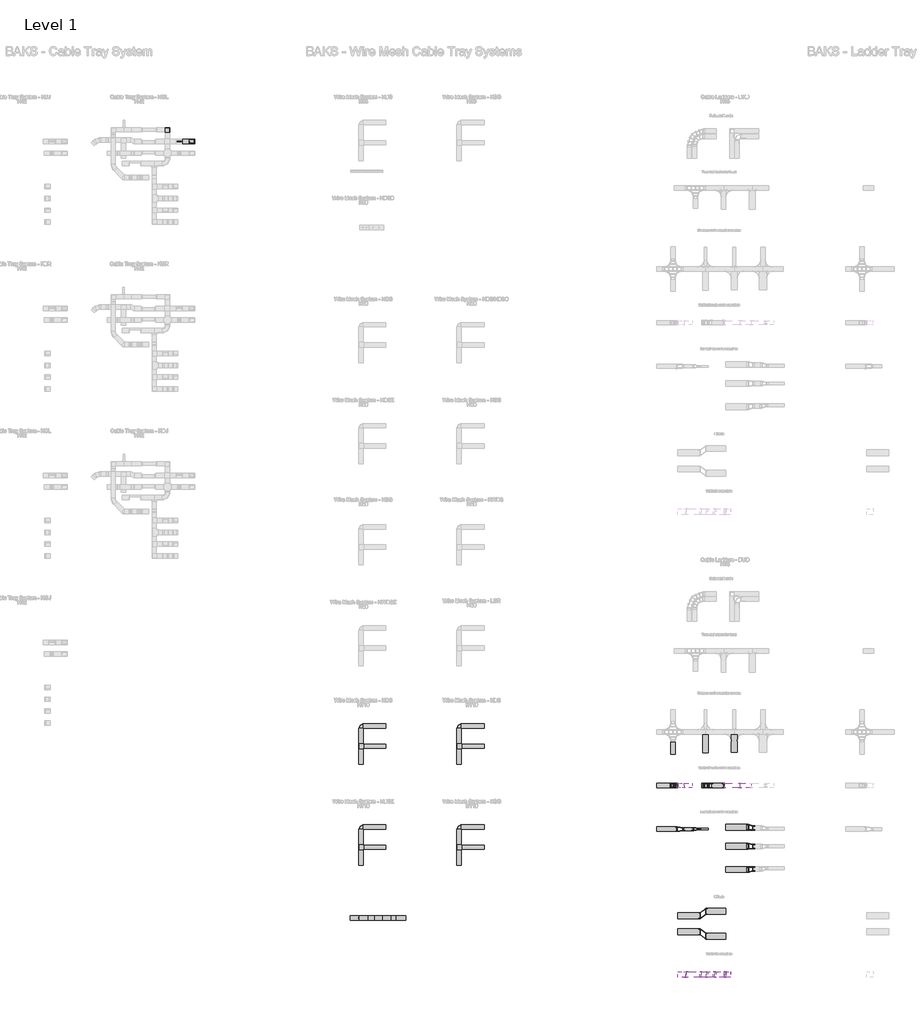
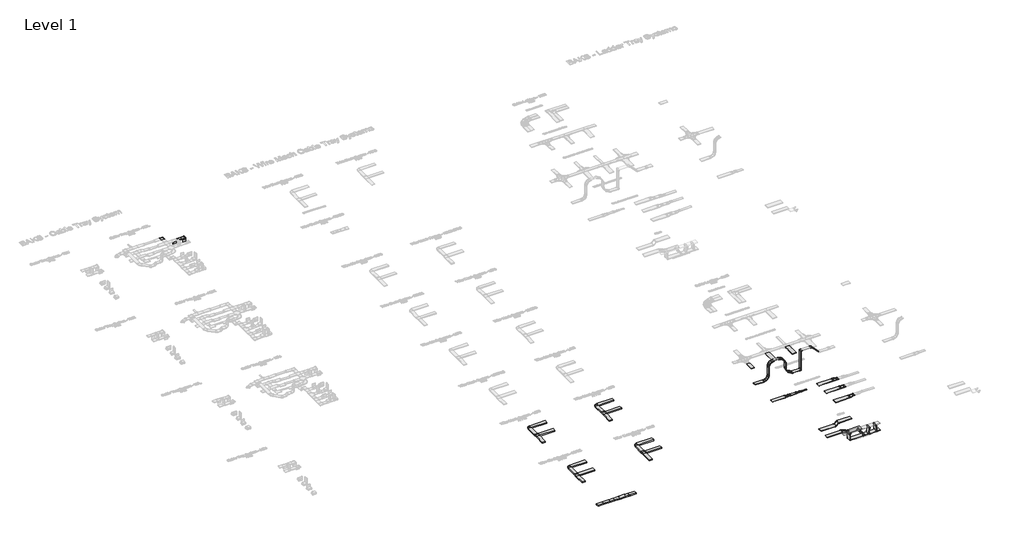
# One storey, part 8 of 106: 61 cable carrier fittings, 60 cable carrier segments.
"""IFC4 building model written with IfcOpenShell, lengths in millimetres."""

from ifc_helpers import new_model, si_unit, frame, origin, origin_with_axes, place, context, project, spatial, polyline, outline, extrude, transform, mapped, element, save
from components import cable_carrier_fitting_400b97e6, cable_carrier_fitting_6db669f1, cable_carrier_fitting_d664f731, cable_carrier_fitting_5b9ae738, cable_carrier_fitting_cf50b9aa, cable_carrier_fitting_d8d59c14, cable_carrier_fitting_6b69b3b7, cable_carrier_fitting_c89aad98, cable_carrier_fitting_28cc8021, cable_carrier_fitting_3c98dc92, cable_carrier_fitting_6c66d9f1, cable_carrier_fitting_4c1293df, cable_carrier_fitting_92366696, cable_carrier_fitting_a2b46a04, cable_carrier_fitting_87479157, cable_carrier_fitting_b11fac2c, cable_carrier_fitting_3ee89383, cable_carrier_fitting_dba92b4f, cable_carrier_fitting_ec1c524e, cable_carrier_fitting_202d3e5f, cable_carrier_fitting_ba505e55, cable_carrier_fitting_958e6ea8, cable_carrier_fitting_c25b36c4, cable_carrier_fitting_df7fb664, cable_carrier_fitting_384de159, cable_carrier_fitting_cef1446e, cable_carrier_fitting_671e1b7f, cable_carrier_fitting_ea2b664d, cable_carrier_fitting_717dd42d, uzs_928a7669, uzs_ee93b948

model = new_model("IFC4")

# Units and contexts
model_context = context("Model", 3, world=origin())
ifc_project = project(units=[si_unit("LENGTHUNIT", "METRE", prefix="MILLI")], contexts=[model_context])

# Site, building, storey
site = spatial("IfcSite", under=ifc_project)
building = spatial("IfcBuilding", under=site)
storey = spatial("IfcBuildingStorey", under=building, Name="Level 1", Elevation=0.0)

# Cable carrier fittings
placement = place(None, origin())
cable_carrier_fitting_shape = cable_carrier_fitting_400b97e6(model_context)
element("IfcCableCarrierFitting", 1, ObjectType="BAKS_Vertical elbow left : KRLBJ_H42", at=placement, inside=storey, context=model_context, shape_type="MappedRepresentation", body=[
    mapped(cable_carrier_fitting_shape, transform((-6208.1670538, 68580.8714214, 0.0), x_axis=(1.0, 0.0, 0.0), y_axis=(0.0, 1.0, 0.0), z_axis=(0.0, 0.0, 1.0))),
])
cable_carrier_fitting_2_shape = cable_carrier_fitting_6db669f1(model_context)
element("IfcCableCarrierFitting", 2, ObjectType="BAKS_SUB_KS_CONN_Snap-In Connector with lock_ZLSN : ZLSN", at=placement, inside=storey, context=model_context, shape_type="MappedRepresentation", body=[
    mapped(cable_carrier_fitting_2_shape, transform((5419.4167945, 15416.5451365, 55.0), x_axis=(1.0, 0.0, 0.0), y_axis=(0.0, 1.0, 0.0), z_axis=(0.0, 0.0, 1.0))),
])
element("IfcCableCarrierFitting", 3, ObjectType="BAKS_SUB_KS_CONN_Snap-In Connector with lock_ZLSN : ZLSN", at=placement, inside=storey, context=model_context, shape_type="MappedRepresentation", body=[
    mapped(cable_carrier_fitting_2_shape, transform((7029.9174156, 15416.5451365, 55.0), x_axis=(1.0, 0.0, 0.0), y_axis=(0.0, 1.0, 0.0), z_axis=(0.0, 0.0, 1.0))),
])
element("IfcCableCarrierFitting", 4, ObjectType="BAKS_SUB_KS_CONN_Snap-In Connector with lock_ZLSN : ZLSN", at=placement, inside=storey, context=model_context, shape_type="MappedRepresentation", body=[
    mapped(cable_carrier_fitting_2_shape, transform((7959.1837652, 15416.5451365, 55.0), x_axis=(1.0, 0.0, 0.0), y_axis=(0.0, 1.0, 0.0), z_axis=(0.0, 0.0, 1.0))),
])
cable_carrier_fitting_3_shape = cable_carrier_fitting_d664f731(model_context)
element("IfcCableCarrierFitting", 5, ObjectType="BAKS_Mesh horizontal bend : KKSZ_H110", at=placement, inside=storey, context=model_context, shape_type="MappedRepresentation", body=[
    mapped(cable_carrier_fitting_3_shape, transform((5569.4167945, 28670.1887189, 55.0), x_axis=(-1.0, 0.0, 0.0), y_axis=(0.0, -1.0, 0.0), z_axis=(0.0, 0.0, 1.0))),
])
element("IfcCableCarrierFitting", 6, ObjectType="BAKS_Mesh horizontal bend : KKSZ_H110", at=placement, inside=storey, context=model_context, shape_type="MappedRepresentation", body=[
    mapped(cable_carrier_fitting_3_shape, transform((12269.4167945, 28670.1887189, 55.0), x_axis=(-1.0, 0.0, 0.0), y_axis=(0.0, -1.0, 0.0), z_axis=(0.0, 0.0, 1.0))),
])
element("IfcCableCarrierFitting", 7, ObjectType="BAKS_Mesh horizontal bend : KKSZ_H110", at=placement, inside=storey, context=model_context, shape_type="MappedRepresentation", body=[
    mapped(cable_carrier_fitting_3_shape, transform((12269.4167945, 21770.1887189, 55.0), x_axis=(-1.0, 0.0, 0.0), y_axis=(0.0, -1.0, 0.0), z_axis=(0.0, 0.0, 1.0))),
])
element("IfcCableCarrierFitting", 8, ObjectType="BAKS_Mesh horizontal bend : KKSZ_H110", at=placement, inside=storey, context=model_context, shape_type="MappedRepresentation", body=[
    mapped(cable_carrier_fitting_3_shape, transform((5569.4167945, 21770.1887189, 55.0), x_axis=(-1.0, 0.0, 0.0), y_axis=(0.0, -1.0, 0.0), z_axis=(0.0, 0.0, 1.0))),
])
cable_carrier_fitting_4_shape = cable_carrier_fitting_5b9ae738(model_context)
element("IfcCableCarrierFitting", 9, ObjectType="BAKS_Mesh horizontal tee : TKSZ_H110", at=placement, inside=storey, context=model_context, shape_type="MappedRepresentation", body=[
    mapped(cable_carrier_fitting_4_shape, transform((5569.4167945, 27293.1012189, 55.0), x_axis=(0.0, 1.0, 0.0), y_axis=(-1.0, 0.0, 0.0), z_axis=(0.0, 0.0, 1.0))),
])
element("IfcCableCarrierFitting", 10, ObjectType="BAKS_Mesh horizontal tee : TKSZ_H110", at=placement, inside=storey, context=model_context, shape_type="MappedRepresentation", body=[
    mapped(cable_carrier_fitting_4_shape, transform((12269.4167945, 27293.1012189, 55.0), x_axis=(0.0, 1.0, 0.0), y_axis=(-1.0, 0.0, 0.0), z_axis=(0.0, 0.0, 1.0))),
])
element("IfcCableCarrierFitting", 11, ObjectType="BAKS_Mesh horizontal tee : TKSZ_H110", at=placement, inside=storey, context=model_context, shape_type="MappedRepresentation", body=[
    mapped(cable_carrier_fitting_4_shape, transform((12269.4167945, 20393.1012189, 55.0), x_axis=(0.0, 1.0, 0.0), y_axis=(-1.0, 0.0, 0.0), z_axis=(0.0, 0.0, 1.0))),
])
element("IfcCableCarrierFitting", 12, ObjectType="BAKS_Mesh horizontal tee : TKSZ_H110", at=placement, inside=storey, context=model_context, shape_type="MappedRepresentation", body=[
    mapped(cable_carrier_fitting_4_shape, transform((5569.4167945, 20393.1012189, 55.0), x_axis=(0.0, 1.0, 0.0), y_axis=(-1.0, 0.0, 0.0), z_axis=(0.0, 0.0, 1.0))),
])
cable_carrier_fitting_5_shape = cable_carrier_fitting_cf50b9aa(model_context)
element("IfcCableCarrierFitting", 13, ObjectType="BAKS_SUB_Mesh connector : LKDSC", at=placement, inside=storey, context=model_context, shape_type="MappedRepresentation", body=[
    mapped(cable_carrier_fitting_5_shape, transform((6054.763659, 15489.5451365, -5.25), x_axis=(-1.0, 0.0, 0.0), y_axis=(0.0, 1.0, 0.0), z_axis=(0.0, 0.0, -1.0))),
])
element("IfcCableCarrierFitting", 14, ObjectType="BAKS_SUB_Mesh connector : LKDSC", at=placement, inside=storey, context=model_context, shape_type="MappedRepresentation", body=[
    mapped(cable_carrier_fitting_5_shape, transform((6054.763659, 15639.5451365, -5.25), x_axis=(-1.0, 0.0, 0.0), y_axis=(0.0, 1.0, 0.0), z_axis=(0.0, 0.0, -1.0))),
])
element("IfcCableCarrierFitting", 15, ObjectType="BAKS_SUB_Mesh connector : LKDSC", at=placement, inside=storey, context=model_context, shape_type="MappedRepresentation", body=[
    mapped(cable_carrier_fitting_5_shape, transform((6494.9806434, 15489.5451365, -5.25), x_axis=(-1.0, 0.0, 0.0), y_axis=(0.0, 1.0, 0.0), z_axis=(0.0, 0.0, -1.0))),
])
element("IfcCableCarrierFitting", 16, ObjectType="BAKS_SUB_Mesh connector : LKDSC", at=placement, inside=storey, context=model_context, shape_type="MappedRepresentation", body=[
    mapped(cable_carrier_fitting_5_shape, transform((6494.9806434, 15639.5451365, -5.25), x_axis=(-1.0, 0.0, 0.0), y_axis=(0.0, 1.0, 0.0), z_axis=(0.0, 0.0, -1.0))),
])
element("IfcCableCarrierFitting", 17, ObjectType="BAKS_SUB_Mesh connector : LKDSC", at=placement, inside=storey, context=model_context, shape_type="MappedRepresentation", body=[
    mapped(cable_carrier_fitting_5_shape, transform((7608.1007324, 15489.5451365, -5.25), x_axis=(-1.0, 0.0, 0.0), y_axis=(0.0, 1.0, 0.0), z_axis=(0.0, 0.0, -1.0))),
])
element("IfcCableCarrierFitting", 18, ObjectType="BAKS_SUB_Mesh connector : LKDSC", at=placement, inside=storey, context=model_context, shape_type="MappedRepresentation", body=[
    mapped(cable_carrier_fitting_5_shape, transform((7608.1007324, 15639.5451365, -5.25), x_axis=(-1.0, 0.0, 0.0), y_axis=(0.0, 1.0, 0.0), z_axis=(0.0, 0.0, -1.0))),
])
cable_carrier_fitting_6_shape = cable_carrier_fitting_d8d59c14(model_context)
element("IfcCableCarrierFitting", 19, ObjectType="BAKS_SUB_KS_CONN_Snap-In Connector with lock_ZLSN : ZLSN", at=placement, inside=storey, context=model_context, shape_type="MappedRepresentation", body=[
    mapped(cable_carrier_fitting_6_shape, transform((5419.4167945, 15712.5451365, 55.0), x_axis=(1.0, 0.0, 0.0), y_axis=(0.0, 1.0, 0.0), z_axis=(0.0, 0.0, 1.0))),
])
element("IfcCableCarrierFitting", 20, ObjectType="BAKS_SUB_KS_CONN_Snap-In Connector with lock_ZLSN : ZLSN", at=placement, inside=storey, context=model_context, shape_type="MappedRepresentation", body=[
    mapped(cable_carrier_fitting_6_shape, transform((7029.9174156, 15712.5451365, 55.0), x_axis=(1.0, 0.0, 0.0), y_axis=(0.0, 1.0, 0.0), z_axis=(0.0, 0.0, 1.0))),
])
element("IfcCableCarrierFitting", 21, ObjectType="BAKS_SUB_KS_CONN_Snap-In Connector with lock_ZLSN : ZLSN", at=placement, inside=storey, context=model_context, shape_type="MappedRepresentation", body=[
    mapped(cable_carrier_fitting_6_shape, transform((7959.1837652, 15712.5451365, 55.0), x_axis=(1.0, 0.0, 0.0), y_axis=(0.0, 1.0, 0.0), z_axis=(0.0, 0.0, 1.0))),
])
cable_carrier_fitting_7_shape = cable_carrier_fitting_6b69b3b7(model_context)
element("IfcCableCarrierFitting", 22, ObjectType="BAKS_LD_CONN_Vertical connector light_LPLS : LPLS60", at=placement, inside=storey, context=model_context, shape_type="MappedRepresentation", body=[
    mapped(cable_carrier_fitting_7_shape, transform((27759.0241468, 11907.9361079, 2052.4619182), x_axis=(-1.0, 0.0, 0.0), y_axis=(0.0, 0.0, 1.0), z_axis=(0.0, 1.0, 0.0))),
])
cable_carrier_fitting_8_shape = cable_carrier_fitting_c89aad98(model_context)
element("IfcCableCarrierFitting", 23, ObjectType="BAKS_LD_CONN_Vertical connector light_LPLS : LPLS60", at=placement, inside=storey, context=model_context, shape_type="MappedRepresentation", body=[
    mapped(cable_carrier_fitting_8_shape, transform((27759.0241468, 11507.9361079, 2052.4619182), x_axis=(-1.0, 0.0, 0.0), y_axis=(0.0, 0.0, -1.0), z_axis=(0.0, -1.0, 0.0))),
])
cable_carrier_fitting_9_shape = cable_carrier_fitting_28cc8021(model_context)
element("IfcCableCarrierFitting", 24, ObjectType="BAKS_LD_RED_Straight reducer_RD : RD(S/L/P)P_H45", at=placement, inside=storey, context=model_context, shape_type="MappedRepresentation", body=[
    mapped(cable_carrier_fitting_9_shape, transform((31865.5222547, 20457.8476348, 55.0), x_axis=(1.0, 0.0, 0.0), y_axis=(0.0, 1.0, 0.0), z_axis=(0.0, 0.0, 1.0))),
])
cable_carrier_fitting_10_shape = cable_carrier_fitting_3c98dc92(model_context)
element("IfcCableCarrierFitting", 25, ObjectType="BAKS_LD_BEND_Vertical bend 90deg external_LPDZ : LPDZP_H45", at=placement, inside=storey, context=model_context, shape_type="MappedRepresentation", body=[
    mapped(cable_carrier_fitting_10_shape, transform((27164.3823889, 24606.9805429, 1900.0), x_axis=(0.0, 0.0, 1.0), y_axis=(1.0, 0.0, 0.0), z_axis=(0.0, 1.0, 0.0))),
])
cable_carrier_fitting_11_shape = cable_carrier_fitting_6c66d9f1(model_context)
element("IfcCableCarrierFitting", 26, ObjectType="BAKS_LD_BEND_Articulated connector_LG : LGT_H45", at=placement, inside=storey, context=model_context, shape_type="MappedRepresentation", body=[
    mapped(cable_carrier_fitting_11_shape, transform((30364.3823889, 24456.9805429, 0.0), x_axis=(1.0, 0.0, 0.0), y_axis=(0.0, 0.0, 1.0), z_axis=(0.0, -1.0, 0.0))),
])
element("IfcCableCarrierFitting", 27, ObjectType="BAKS_LD_BEND_Articulated connector_LG : LGT_H45", at=placement, inside=storey, context=model_context, shape_type="MappedRepresentation", body=[
    mapped(cable_carrier_fitting_11_shape, transform((30364.3823889, 24756.9805429, 2000.0), x_axis=(0.0, 0.0, 1.0), y_axis=(1.0, 0.0, 0.0), z_axis=(0.0, 1.0, 0.0))),
])
element("IfcCableCarrierFitting", 28, ObjectType="BAKS_LD_BEND_Articulated connector_LG : LGT_H45", at=placement, inside=storey, context=model_context, shape_type="MappedRepresentation", body=[
    mapped(cable_carrier_fitting_11_shape, transform((27759.0241468, 11507.9361079, 1334.7815792), x_axis=(0.0, 0.0, -1.0), y_axis=(1.0, 0.0, 0.0), z_axis=(0.0, -1.0, 0.0))),
])
cable_carrier_fitting_12_shape = cable_carrier_fitting_4c1293df(model_context)
element("IfcCableCarrierFitting", 29, ObjectType="BAKS_LD_BEND_Articulated connector_LG : LGT_H45", at=placement, inside=storey, context=model_context, shape_type="MappedRepresentation", body=[
    mapped(cable_carrier_fitting_12_shape, transform((30364.3823889, 24756.9805429, 0.0), x_axis=(1.0, 0.0, 0.0), y_axis=(0.0, 0.0, -1.0), z_axis=(0.0, 1.0, 0.0))),
])
element("IfcCableCarrierFitting", 30, ObjectType="BAKS_LD_BEND_Articulated connector_LG : LGT_H45", at=placement, inside=storey, context=model_context, shape_type="MappedRepresentation", body=[
    mapped(cable_carrier_fitting_12_shape, transform((30364.3823889, 24456.9805429, 2000.0), x_axis=(0.0, 0.0, 1.0), y_axis=(-1.0, 0.0, 0.0), z_axis=(0.0, -1.0, 0.0))),
])
element("IfcCableCarrierFitting", 31, ObjectType="BAKS_LD_BEND_Articulated connector_LG : LGT_H45", at=placement, inside=storey, context=model_context, shape_type="MappedRepresentation", body=[
    mapped(cable_carrier_fitting_12_shape, transform((27759.0241468, 11907.9361079, 1334.7815792), x_axis=(0.0, 0.0, -1.0), y_axis=(-1.0, 0.0, 0.0), z_axis=(0.0, 1.0, 0.0))),
])
cable_carrier_fitting_13_shape = cable_carrier_fitting_92366696(model_context)
cable_carrier_fitting_14_shape = cable_carrier_fitting_a2b46a04(model_context)
element("IfcCableCarrierFitting", 32, ObjectType="BAKS_LD_BEND_Adjustable vertical bend_LPD : LPDP_H45", at=placement, inside=storey, context=model_context, shape_type="MappedRepresentation", body=[
    mapped(cable_carrier_fitting_13_shape, transform((28864.3823889, 24606.9805429, 1900.0), x_axis=(1.0, 0.0, 0.0), y_axis=(0.0, 0.0, -1.0), z_axis=(0.0, 1.0, 0.0))),
    mapped(cable_carrier_fitting_14_shape, transform((28864.3823889, 24606.9805429, 1900.0), x_axis=(1.0, 0.0, 0.0), y_axis=(0.0, 0.0, -1.0), z_axis=(0.0, 1.0, 0.0))),
])
element("IfcCableCarrierFitting", 33, ObjectType="BAKS_LD_BEND_Adjustable vertical bend_LPD : LPDP_H45", at=placement, inside=storey, context=model_context, shape_type="MappedRepresentation", body=[
    mapped(cable_carrier_fitting_13_shape, transform((28864.3823889, 24606.9805429, 0.0), x_axis=(0.0, 0.0, -1.0), y_axis=(1.0, 0.0, 0.0), z_axis=(0.0, -1.0, 0.0))),
    mapped(cable_carrier_fitting_14_shape, transform((28864.3823889, 24606.9805429, 0.0), x_axis=(0.0, 0.0, -1.0), y_axis=(1.0, 0.0, 0.0), z_axis=(0.0, -1.0, 0.0))),
])
cable_carrier_fitting_15_shape = cable_carrier_fitting_87479157(model_context)
element("IfcCableCarrierFitting", 34, ObjectType="BAKS_LD_BEND_Articulated connector_LG : LGT_H45", at=placement, inside=storey, context=model_context, shape_type="MappedRepresentation", body=[
    mapped(cable_carrier_fitting_15_shape, transform((31464.3823889, 24756.9805429, 2000.0), x_axis=(1.0, 0.0, 0.0), y_axis=(0.0, 0.0, -1.0), z_axis=(0.0, 1.0, 0.0))),
])
cable_carrier_fitting_16_shape = cable_carrier_fitting_b11fac2c(model_context)
element("IfcCableCarrierFitting", 35, ObjectType="BAKS_LD_BEND_Articulated connector_LG : LGT_H45", at=placement, inside=storey, context=model_context, shape_type="MappedRepresentation", body=[
    mapped(cable_carrier_fitting_16_shape, transform((31464.3823889, 24456.9805429, 2000.0), x_axis=(1.0, 0.0, 0.0), y_axis=(0.0, 0.0, 1.0), z_axis=(0.0, -1.0, 0.0))),
])
element("IfcCableCarrierFitting", 36, ObjectType="BAKS_LD_BEND_Vertical bend 90deg internal_LPDW : LPDWP_H45", at=placement, inside=storey, context=model_context, shape_type="MappedRepresentation", body=[
    mapped(cable_carrier_fitting_10_shape, transform((27164.3823889, 24606.9805429, 55.0), x_axis=(1.0, 0.0, 0.0), y_axis=(0.0, 0.0, 1.0), z_axis=(0.0, -1.0, 0.0))),
])
cable_carrier_fitting_17_shape = cable_carrier_fitting_3ee89383(model_context)
element("IfcCableCarrierFitting", 37, ObjectType="BAKS_LD_CONN_Univarsal connector reduction_LLUS : LLUSP_H45", at=placement, inside=storey, context=model_context, shape_type="MappedRepresentation", body=[
    mapped(cable_carrier_fitting_17_shape, transform((28164.3823889, 21631.6579459, 55.0), x_axis=(1.0, 0.0, 0.0), y_axis=(0.0, 1.0, 0.0), z_axis=(0.0, 0.0, 1.0))),
])
cable_carrier_fitting_18_shape = cable_carrier_fitting_dba92b4f(model_context)
element("IfcCableCarrierFitting", 38, ObjectType="BAKS_LD_RED_Straight reducer_RD : RD(S/L/P)P_H45", at=placement, inside=storey, context=model_context, shape_type="MappedRepresentation", body=[
    mapped(cable_carrier_fitting_18_shape, transform((31865.5222547, 18871.6579459, 55.0), x_axis=(1.0, 0.0, 0.0), y_axis=(0.0, 1.0, 0.0), z_axis=(0.0, 0.0, 1.0))),
])
cable_carrier_fitting_19_shape = cable_carrier_fitting_ec1c524e(model_context)
element("IfcCableCarrierFitting", 39, ObjectType="BAKS_LD_RED_Straight reducer_RD : RD(S/L/P)P_H45", at=placement, inside=storey, context=model_context, shape_type="MappedRepresentation", body=[
    mapped(cable_carrier_fitting_19_shape, transform((31865.5222547, 21757.8476348, 55.0), x_axis=(1.0, 0.0, 0.0), y_axis=(0.0, 1.0, 0.0), z_axis=(0.0, 0.0, 1.0))),
])
cable_carrier_fitting_20_shape = cable_carrier_fitting_202d3e5f(model_context)
element("IfcCableCarrierFitting", 40, ObjectType="BAKS_LD_CONN_Univarsal connector reduction_LLUS : LLUSP_H45", at=placement, inside=storey, context=model_context, shape_type="MappedRepresentation", body=[
    mapped(cable_carrier_fitting_20_shape, transform((27064.3823889, 21631.6579459, 55.0), x_axis=(1.0, 0.0, 0.0), y_axis=(0.0, 1.0, 0.0), z_axis=(0.0, 0.0, 1.0))),
])
cable_carrier_fitting_21_shape = cable_carrier_fitting_ba505e55(model_context)
element("IfcCableCarrierFitting", 41, ObjectType="BAKS_LD_CONN_Univarsal connector offset_LLUS : LLUSP_H45", at=placement, inside=storey, context=model_context, shape_type="MappedRepresentation", body=[
    mapped(cable_carrier_fitting_21_shape, transform((28695.3508196, 15720.3591551, 55.0), x_axis=(1.0, 0.0, 0.0), y_axis=(0.0, 1.0, 0.0), z_axis=(0.0, 0.0, 1.0))),
])
cable_carrier_fitting_22_shape = cable_carrier_fitting_958e6ea8(model_context)
element("IfcCableCarrierFitting", 42, ObjectType="BAKS_LD_CONN_Univarsal connector offset_LLUS : LLUSP_H45", at=placement, inside=storey, context=model_context, shape_type="MappedRepresentation", body=[
    mapped(cable_carrier_fitting_22_shape, transform((28695.3508196, 14620.3591551, 55.0), x_axis=(1.0, 0.0, 0.0), y_axis=(0.0, 1.0, 0.0), z_axis=(0.0, 0.0, 1.0))),
])
cable_carrier_fitting_23_shape = cable_carrier_fitting_c25b36c4(model_context)
element("IfcCableCarrierFitting", 43, ObjectType="BAKS_LD_TEE_Articulated connector attachable_LDD : LDDT_H45", at=placement, inside=storey, context=model_context, shape_type="MappedRepresentation", body=[
    mapped(cable_carrier_fitting_23_shape, transform((28810.266251, 11507.9361079, 1949.9576433), x_axis=(1.0, 0.0, 0.0), y_axis=(0.0, 1.0, 0.0), z_axis=(0.0, 0.0, 1.0))),
])
element("IfcCableCarrierFitting", 44, ObjectType="BAKS_LD_TEE_Articulated connector attachable_LDD : LDDT_H45", at=placement, inside=storey, context=model_context, shape_type="MappedRepresentation", body=[
    mapped(cable_carrier_fitting_23_shape, transform((29128.739213, 11507.9361079, 1412.2815792), x_axis=(-1.0, 0.0, 0.0), y_axis=(0.0, 1.0, 0.0), z_axis=(0.0, 0.0, -1.0))),
])
cable_carrier_fitting_24_shape = cable_carrier_fitting_df7fb664(model_context)
element("IfcCableCarrierFitting", 45, ObjectType="BAKS_LD_TEE_Articulated connector attachable_LDD : LDDT_H45", at=placement, inside=storey, context=model_context, shape_type="MappedRepresentation", body=[
    mapped(cable_carrier_fitting_24_shape, transform((28810.266251, 11907.9361079, 1949.9576433), x_axis=(1.0, 0.0, 0.0), y_axis=(0.0, 1.0, 0.0), z_axis=(0.0, 0.0, 1.0))),
])
element("IfcCableCarrierFitting", 46, ObjectType="BAKS_LD_TEE_Articulated connector attachable_LDD : LDDT_H45", at=placement, inside=storey, context=model_context, shape_type="MappedRepresentation", body=[
    mapped(cable_carrier_fitting_24_shape, transform((29128.739213, 11907.9361079, 1412.2815792), x_axis=(-1.0, 0.0, 0.0), y_axis=(0.0, 1.0, 0.0), z_axis=(0.0, 0.0, -1.0))),
])
cable_carrier_fitting_25_shape = cable_carrier_fitting_384de159(model_context)
element("IfcCableCarrierFitting", 47, ObjectType="BAKS_LD_TEE_Articulated connector attachable_LDD : LDDT_H45", at=placement, inside=storey, context=model_context, shape_type="MappedRepresentation", body=[
    mapped(cable_carrier_fitting_25_shape, transform((29726.8193277, 11907.9361079, 1412.2815792), x_axis=(1.0, 0.0, 0.0), y_axis=(0.0, -1.0, 0.0), z_axis=(0.0, 0.0, -1.0))),
])
element("IfcCableCarrierFitting", 48, ObjectType="BAKS_LD_TEE_Articulated connector attachable_LDD : LDDT_H45", at=placement, inside=storey, context=model_context, shape_type="MappedRepresentation", body=[
    mapped(cable_carrier_fitting_25_shape, transform((29710.4138626, 11907.9361079, 1949.9295622), x_axis=(-1.0, 0.0, 0.0), y_axis=(0.0, -1.0, 0.0), z_axis=(0.0, 0.0, 1.0))),
])
cable_carrier_fitting_26_shape = cable_carrier_fitting_cef1446e(model_context)
element("IfcCableCarrierFitting", 49, ObjectType="BAKS_LD_TEE_Articulated connector attachable_LDD : LDDT_H45", at=placement, inside=storey, context=model_context, shape_type="MappedRepresentation", body=[
    mapped(cable_carrier_fitting_26_shape, transform((29726.8193277, 11507.9361079, 1412.2815792), x_axis=(1.0, 0.0, 0.0), y_axis=(0.0, -1.0, 0.0), z_axis=(0.0, 0.0, -1.0))),
])
element("IfcCableCarrierFitting", 50, ObjectType="BAKS_LD_TEE_Articulated connector attachable_LDD : LDDT_H45", at=placement, inside=storey, context=model_context, shape_type="MappedRepresentation", body=[
    mapped(cable_carrier_fitting_26_shape, transform((29710.4138626, 11507.9361079, 1949.9295622), x_axis=(-1.0, 0.0, 0.0), y_axis=(0.0, -1.0, 0.0), z_axis=(0.0, 0.0, 1.0))),
])
cable_carrier_fitting_27_shape = cable_carrier_fitting_671e1b7f(model_context)
element("IfcCableCarrierFitting", 51, ObjectType="BAKS_LD_TEE_Articulated connector attachable_LDD : LDDT_H45", at=placement, inside=storey, context=model_context, shape_type="MappedRepresentation", body=[
    mapped(cable_carrier_fitting_27_shape, transform((30352.1274343, 11907.9361079, 1949.9576433), x_axis=(-1.0, 0.0, 0.0), y_axis=(0.0, -1.0, 0.0), z_axis=(0.0, 0.0, 1.0))),
])
element("IfcCableCarrierFitting", 52, ObjectType="BAKS_LD_TEE_Articulated connector attachable_LDD : LDDT_H45", at=placement, inside=storey, context=model_context, shape_type="MappedRepresentation", body=[
    mapped(cable_carrier_fitting_27_shape, transform((30507.1274343, 11907.9361079, 1412.2815792), x_axis=(1.0, 0.0, 0.0), y_axis=(0.0, -1.0, 0.0), z_axis=(0.0, 0.0, -1.0))),
])
cable_carrier_fitting_28_shape = cable_carrier_fitting_ea2b664d(model_context)
element("IfcCableCarrierFitting", 53, ObjectType="BAKS_LD_TEE_Articulated connector attachable_LDD : LDDT_H45", at=placement, inside=storey, context=model_context, shape_type="MappedRepresentation", body=[
    mapped(cable_carrier_fitting_28_shape, transform((30352.1274343, 11507.9361079, 1949.9576433), x_axis=(-1.0, 0.0, 0.0), y_axis=(0.0, -1.0, 0.0), z_axis=(0.0, 0.0, 1.0))),
])
element("IfcCableCarrierFitting", 54, ObjectType="BAKS_LD_TEE_Articulated connector attachable_LDD : LDDT_H45", at=placement, inside=storey, context=model_context, shape_type="MappedRepresentation", body=[
    mapped(cable_carrier_fitting_28_shape, transform((30507.1274343, 11507.9361079, 1412.2815792), x_axis=(1.0, 0.0, 0.0), y_axis=(0.0, -1.0, 0.0), z_axis=(0.0, 0.0, -1.0))),
])
cable_carrier_fitting_29_shape = cable_carrier_fitting_717dd42d(model_context)
element("IfcCableCarrierFitting", 55, ObjectType="BAKS_Horizontal bend : KKBL/KKMBL_H42", at=placement, inside=storey, context=model_context, shape_type="MappedRepresentation", body=[
    mapped(cable_carrier_fitting_29_shape, transform((-7643.1670538, 69380.8714214, 0.0), x_axis=(0.0, 1.0, 0.0), y_axis=(-1.0, 0.0, 0.0), z_axis=(0.0, 0.0, 1.0))),
])
uzs_shape = uzs_928a7669(model_context)
element("IfcCableCarrierFitting", 56, ObjectType="BAKS_SUB_Mesh connector bottom : UZS", at=placement, inside=storey, context=model_context, shape_type="MappedRepresentation", body=[
    mapped(uzs_shape, transform((5424.4167945, 15519.5451365, -2.0), x_axis=(0.0, 1.0, 0.0), y_axis=(-1.0, 0.0, 0.0), z_axis=(0.0, 0.0, 1.0))),
])
element("IfcCableCarrierFitting", 57, ObjectType="BAKS_SUB_Mesh connector bottom : UZS", at=placement, inside=storey, context=model_context, shape_type="MappedRepresentation", body=[
    mapped(uzs_shape, transform((7034.9174156, 15519.5451365, -2.0), x_axis=(0.0, 1.0, 0.0), y_axis=(-1.0, 0.0, 0.0), z_axis=(0.0, 0.0, 1.0))),
])
element("IfcCableCarrierFitting", 58, ObjectType="BAKS_SUB_Mesh connector bottom : UZS", at=placement, inside=storey, context=model_context, shape_type="MappedRepresentation", body=[
    mapped(uzs_shape, transform((7964.1837652, 15519.5451365, -2.0), x_axis=(0.0, 1.0, 0.0), y_axis=(-1.0, 0.0, 0.0), z_axis=(0.0, 0.0, 1.0))),
])
uzs_2_shape = uzs_ee93b948(model_context)
element("IfcCableCarrierFitting", 59, ObjectType="BAKS_SUB_Mesh connector bottom : UZS", at=placement, inside=storey, context=model_context, shape_type="MappedRepresentation", body=[
    mapped(uzs_2_shape, transform((5424.4167945, 15609.5451365, -2.0), x_axis=(0.0, -1.0, 0.0), y_axis=(1.0, 0.0, 0.0), z_axis=(0.0, 0.0, 1.0))),
])
element("IfcCableCarrierFitting", 60, ObjectType="BAKS_SUB_Mesh connector bottom : UZS", at=placement, inside=storey, context=model_context, shape_type="MappedRepresentation", body=[
    mapped(uzs_2_shape, transform((7034.9174156, 15609.5451365, -2.0), x_axis=(0.0, -1.0, 0.0), y_axis=(1.0, 0.0, 0.0), z_axis=(0.0, 0.0, 1.0))),
])
element("IfcCableCarrierFitting", 61, ObjectType="BAKS_SUB_Mesh connector bottom : UZS", at=placement, inside=storey, context=model_context, shape_type="MappedRepresentation", body=[
    mapped(uzs_2_shape, transform((7964.1837652, 15609.5451365, -2.0), x_axis=(0.0, -1.0, 0.0), y_axis=(1.0, 0.0, 0.0), z_axis=(0.0, 0.0, 1.0))),
])

# Cable carrier segments
element("IfcCableCarrierSegment", 62, ObjectType="BAKS - Cable tray H42 (KGL)", at=placement, inside=storey, context=model_context, shape_type="SweptSolid", body=[
    extrude(outline(polyline([(-6588.1670538, 68430.8714214), (-6588.1670538, 68730.8714214), (-6208.1670538, 68730.8714214), (-6208.1670538, 68430.8714214), (-6588.1670538, 68430.8714214)])), frame((0.0, 0.0, -21.0), z_axis=(0.0, 0.0, 1.0), x_axis=(1.0, 0.0, 0.0)), (0.0, 0.0, 1.0), 42.0),
])
element("IfcCableCarrierSegment", 63, ObjectType="BAKS - Wire mesh tray H110 (KCS)", at=placement, inside=storey, context=model_context, shape_type="SweptSolid", body=[
    extrude(outline(polyline([(5723.5917945, 28520.1887189), (5723.5917945, 28820.1887189), (7269.4167945, 28820.1887189), (7269.4167945, 28520.1887189), (5723.5917945, 28520.1887189)])), origin_with_axes(), (0.0, 0.0, 1.0), 110.0),
])
element("IfcCableCarrierSegment", 64, ObjectType="BAKS - Wire mesh tray H110 (KCS)", at=placement, inside=storey, context=model_context, shape_type="SweptSolid", body=[
    extrude(outline(polyline([(5774.4167945, 27143.1012189), (5774.4167945, 27443.1012189), (7269.4167945, 27443.1012189), (7269.4167945, 27143.1012189), (5774.4167945, 27143.1012189)])), origin_with_axes(), (0.0, 0.0, 1.0), 110.0),
])
element("IfcCableCarrierSegment", 65, ObjectType="BAKS - Wire mesh tray H110 (KCS)", at=placement, inside=storey, context=model_context, shape_type="SweptSolid", body=[
    extrude(outline(polyline([(5419.4167945, 27088.1012189), (5719.4167945, 27088.1012189), (5719.4167945, 26070.1887189), (5419.4167945, 26070.1887189), (5419.4167945, 27088.1012189)])), origin_with_axes(), (0.0, 0.0, 1.0), 110.0),
])
element("IfcCableCarrierSegment", 66, ObjectType="BAKS - Wire mesh tray H110 (KDS)", at=placement, inside=storey, context=model_context, shape_type="SweptSolid", body=[
    extrude(outline(polyline([(12423.5917945, 28520.1887189), (12423.5917945, 28820.1887189), (13969.4167945, 28820.1887189), (13969.4167945, 28520.1887189), (12423.5917945, 28520.1887189)])), origin_with_axes(), (0.0, 0.0, 1.0), 110.0),
])
element("IfcCableCarrierSegment", 67, ObjectType="BAKS - Wire mesh tray H110 (KDS)", at=placement, inside=storey, context=model_context, shape_type="SweptSolid", body=[
    extrude(outline(polyline([(12419.4167945, 27498.1012189), (12119.4167945, 27498.1012189), (12119.4167945, 28516.0137189), (12419.4167945, 28516.0137189), (12419.4167945, 27498.1012189)])), origin_with_axes(), (0.0, 0.0, 1.0), 110.0),
])
element("IfcCableCarrierSegment", 68, ObjectType="BAKS - Wire mesh tray H110 (KDS)", at=placement, inside=storey, context=model_context, shape_type="SweptSolid", body=[
    extrude(outline(polyline([(12474.4167945, 27143.1012189), (12474.4167945, 27443.1012189), (13969.4167945, 27443.1012189), (13969.4167945, 27143.1012189), (12474.4167945, 27143.1012189)])), origin_with_axes(), (0.0, 0.0, 1.0), 110.0),
])
element("IfcCableCarrierSegment", 69, ObjectType="BAKS - Wire mesh tray H110 (KDSZ)", at=placement, inside=storey, context=model_context, shape_type="SweptSolid", body=[
    extrude(outline(polyline([(5723.5917945, 21620.1887189), (5723.5917945, 21920.1887189), (7269.4167945, 21920.1887189), (7269.4167945, 21620.1887189), (5723.5917945, 21620.1887189)])), origin_with_axes(), (0.0, 0.0, 1.0), 110.0),
])
element("IfcCableCarrierSegment", 70, ObjectType="BAKS - Wire mesh tray H110 (KDSZ)", at=placement, inside=storey, context=model_context, shape_type="SweptSolid", body=[
    extrude(outline(polyline([(5719.4167945, 20598.1012189), (5419.4167945, 20598.1012189), (5419.4167945, 21616.0137189), (5719.4167945, 21616.0137189), (5719.4167945, 20598.1012189)])), origin_with_axes(), (0.0, 0.0, 1.0), 110.0),
])
element("IfcCableCarrierSegment", 71, ObjectType="BAKS - Wire mesh tray H110 (KDSZ)", at=placement, inside=storey, context=model_context, shape_type="SweptSolid", body=[
    extrude(outline(polyline([(5774.4167945, 20243.1012189), (5774.4167945, 20543.1012189), (7269.4167945, 20543.1012189), (7269.4167945, 20243.1012189), (5774.4167945, 20243.1012189)])), origin_with_axes(), (0.0, 0.0, 1.0), 110.0),
])
element("IfcCableCarrierSegment", 72, ObjectType="BAKS - Wire mesh tray H110 (KSG)", at=placement, inside=storey, context=model_context, shape_type="SweptSolid", body=[
    extrude(outline(polyline([(12423.5917945, 21620.1887189), (12423.5917945, 21920.1887189), (13969.4167945, 21920.1887189), (13969.4167945, 21620.1887189), (12423.5917945, 21620.1887189)])), origin_with_axes(), (0.0, 0.0, 1.0), 110.0),
])
element("IfcCableCarrierSegment", 73, ObjectType="BAKS - Wire mesh tray H110 (KSG)", at=placement, inside=storey, context=model_context, shape_type="SweptSolid", body=[
    extrude(outline(polyline([(12474.4167945, 20243.1012189), (12474.4167945, 20543.1012189), (13969.4167945, 20543.1012189), (13969.4167945, 20243.1012189), (12474.4167945, 20243.1012189)])), origin_with_axes(), (0.0, 0.0, 1.0), 110.0),
])
element("IfcCableCarrierSegment", 74, ObjectType="BAKS - Wire mesh tray H110 (KSG)", at=placement, inside=storey, context=model_context, shape_type="SweptSolid", body=[
    extrude(outline(polyline([(12119.4167945, 20188.1012189), (12419.4167945, 20188.1012189), (12419.4167945, 19170.1887189), (12119.4167945, 19170.1887189), (12119.4167945, 20188.1012189)])), origin_with_axes(), (0.0, 0.0, 1.0), 110.0),
])
element("IfcCableCarrierSegment", 75, ObjectType="BAKS - Wire mesh tray H110 (KCS)", at=placement, inside=storey, context=model_context, shape_type="SweptSolid", body=[
    extrude(outline(polyline([(5419.4167945, 28516.0137189), (5719.4167945, 28516.0137189), (5719.4167945, 27498.1012189), (5419.4167945, 27498.1012189), (5419.4167945, 28516.0137189)])), origin_with_axes(), (0.0, 0.0, 1.0), 110.0),
])
element("IfcCableCarrierSegment", 76, ObjectType="BAKS - Wire mesh tray H110 (KDS)", at=placement, inside=storey, context=model_context, shape_type="SweptSolid", body=[
    extrude(outline(polyline([(12419.4167945, 26070.1887189), (12119.4167945, 26070.1887189), (12119.4167945, 27088.1012189), (12419.4167945, 27088.1012189), (12419.4167945, 26070.1887189)])), origin_with_axes(), (0.0, 0.0, 1.0), 110.0),
])
element("IfcCableCarrierSegment", 77, ObjectType="BAKS - Wire mesh tray H110 (KSG)", at=placement, inside=storey, context=model_context, shape_type="SweptSolid", body=[
    extrude(outline(polyline([(12119.4167945, 21616.0137189), (12419.4167945, 21616.0137189), (12419.4167945, 20598.1012189), (12119.4167945, 20598.1012189), (12119.4167945, 21616.0137189)])), origin_with_axes(), (0.0, 0.0, 1.0), 110.0),
])
element("IfcCableCarrierSegment", 78, ObjectType="BAKS - Wire mesh tray H110 (KDSZ)", at=placement, inside=storey, context=model_context, shape_type="SweptSolid", body=[
    extrude(outline(polyline([(5719.4167945, 19170.1887189), (5419.4167945, 19170.1887189), (5419.4167945, 20188.1012189), (5719.4167945, 20188.1012189), (5719.4167945, 19170.1887189)])), origin_with_axes(), (0.0, 0.0, 1.0), 110.0),
])
element("IfcCableCarrierSegment", 79, ObjectType="BAKS - Cable tray H42 (KGL)", at=placement, inside=storey, context=model_context, shape_type="SweptSolid", body=[
    extrude(outline(polyline([(-6988.1670538, 68601.8714214), (-6688.1670538, 68601.8714214), (-6688.1670538, 68559.8714214), (-6988.1670538, 68559.8714214), (-6988.1670538, 68601.8714214)])), frame((0.0, 0.0, -330.7997464), z_axis=(0.0, 0.0, 1.0), x_axis=(1.0, 0.0, 0.0)), (0.0, 0.0, 1.0), 209.7997464),
])
element("IfcCableCarrierSegment", 80, ObjectType="BAKS - Cable tray H42 (KGL)", at=placement, inside=storey, context=model_context, shape_type="SweptSolid", body=[
    extrude(outline(polyline([(-5798.1670538, 68430.8714214), (-6098.1670538, 68430.8714214), (-6098.1670538, 68472.8714214), (-5798.1670538, 68472.8714214), (-5798.1670538, 68430.8714214)])), frame((0.0, 0.0, -330.7997464), z_axis=(0.0, 0.0, 1.0), x_axis=(1.0, 0.0, 0.0)), (0.0, 0.0, 1.0), 209.7997464),
])
element("IfcCableCarrierSegment", 81, ObjectType="BAKS - Wire mesh tray H110 (KDSZ)", at=placement, inside=storey, context=model_context, shape_type="SweptSolid", body=[
    extrude(outline(polyline([(7964.1837652, 15414.5451365), (7964.1837652, 15714.5451365), (8635.4180368, 15714.5451365), (8635.4180368, 15414.5451365), (7964.1837652, 15414.5451365)])), origin_with_axes(), (0.0, 0.0, 1.0), 110.0),
])
element("IfcCableCarrierSegment", 82, ObjectType="BAKS - Wire mesh tray H110 (KDSZ)", at=placement, inside=storey, context=model_context, shape_type="SweptSolid", body=[
    extrude(outline(polyline([(4835.4180368, 15414.5451365), (4835.4180368, 15714.5451365), (5414.4167945, 15714.5451365), (5414.4167945, 15414.5451365), (4835.4180368, 15414.5451365)])), origin_with_axes(), (0.0, 0.0, 1.0), 110.0),
])
element("IfcCableCarrierSegment", 83, ObjectType="BAKS - Wire mesh tray H110 (KDSZ)", at=placement, inside=storey, context=model_context, shape_type="SweptSolid", body=[
    extrude(outline(polyline([(6509.9806434, 15414.5451365), (6509.9806434, 15714.5451365), (7024.9174156, 15714.5451365), (7024.9174156, 15414.5451365), (6509.9806434, 15414.5451365)])), origin_with_axes(), (0.0, 0.0, 1.0), 110.0),
])
element("IfcCableCarrierSegment", 84, ObjectType="BAKS - Wire mesh tray H110 (KDSZ)", at=placement, inside=storey, context=model_context, shape_type="SweptSolid", body=[
    extrude(outline(polyline([(7623.1007324, 15414.5451365), (7623.1007324, 15714.5451365), (7954.1837652, 15714.5451365), (7954.1837652, 15414.5451365), (7623.1007324, 15414.5451365)])), origin_with_axes(), (0.0, 0.0, 1.0), 110.0),
])
element("IfcCableCarrierSegment", 85, ObjectType="BAKS - Wire mesh tray H110 (KDSZ)", at=placement, inside=storey, context=model_context, shape_type="SweptSolid", body=[
    extrude(outline(polyline([(5424.4167945, 15414.5451365), (5424.4167945, 15714.5451365), (6039.763659, 15714.5451365), (6039.763659, 15414.5451365), (5424.4167945, 15414.5451365)])), origin_with_axes(), (0.0, 0.0, 1.0), 110.0),
])
element("IfcCableCarrierSegment", 86, ObjectType="BAKS - Wire mesh tray H110 (KDSZ)", at=placement, inside=storey, context=model_context, shape_type="SweptSolid", body=[
    extrude(outline(polyline([(6069.763659, 15414.5451365), (6069.763659, 15714.5451365), (6479.9806434, 15714.5451365), (6479.9806434, 15414.5451365), (6069.763659, 15414.5451365)])), origin_with_axes(), (0.0, 0.0, 1.0), 110.0),
])
element("IfcCableCarrierSegment", 87, ObjectType="BAKS - Wire mesh tray H110 (KDSZ)", at=placement, inside=storey, context=model_context, shape_type="SweptSolid", body=[
    extrude(outline(polyline([(7034.9174156, 15414.5451365), (7034.9174156, 15714.5451365), (7593.1007324, 15714.5451365), (7593.1007324, 15414.5451365), (7034.9174156, 15414.5451365)])), origin_with_axes(), (0.0, 0.0, 1.0), 110.0),
])
element("IfcCableCarrierSegment", 88, ObjectType="BAKS - Ladder H45 (DUD)", at=placement, inside=storey, context=model_context, shape_type="SweptSolid", body=[
    extrude(outline(polyline([(26714.7261828, 27550.7686574), (27014.7261828, 27550.7686574), (27014.7261828, 26750.7686574), (26714.7261828, 26750.7686574), (26714.7261828, 27550.7686574)])), frame((0.0, 0.0, 32.5), z_axis=(0.0, 0.0, 1.0), x_axis=(1.0, 0.0, 0.0)), (0.0, 0.0, 1.0), 45.0),
])
element("IfcCableCarrierSegment", 89, ObjectType="BAKS - Ladder H45 (DUD)", at=placement, inside=storey, context=model_context, shape_type="SweptSolid", body=[
    extrude(outline(polyline([(28889.2849338, 28090.7686574), (29289.2849338, 28090.7686574), (29289.2849338, 26830.7686574), (28889.2849338, 26830.7686574), (28889.2849338, 28090.7686574)])), frame((0.0, 0.0, 32.5), z_axis=(0.0, 0.0, 1.0), x_axis=(1.0, 0.0, 0.0)), (0.0, 0.0, 1.0), 45.0),
])
element("IfcCableCarrierSegment", 90, ObjectType="BAKS - Ladder H45 (DUD)", at=placement, inside=storey, context=model_context, shape_type="SweptSolid", body=[
    extrude(outline(polyline([(30850.9231102, 28090.7686574), (31250.9231102, 28090.7686574), (31250.9231102, 26870.7686574), (30850.9231102, 26870.7686574), (30850.9231102, 28090.7686574)])), frame((0.0, 0.0, 32.5), z_axis=(0.0, 0.0, 1.0), x_axis=(1.0, 0.0, 0.0)), (0.0, 0.0, 1.0), 45.0),
])
element("IfcCableCarrierSegment", 91, ObjectType="BAKS - Ladder H45 (DUD)", at=placement, inside=storey, context=model_context, shape_type="SweptSolid", body=[
    extrude(outline(polyline([(25764.3823889, 24456.9805429), (25764.3823889, 24756.9805429), (26641.8823889, 24756.9805429), (26641.8823889, 24456.9805429), (25764.3823889, 24456.9805429)])), frame((0.0, 0.0, 32.5), z_axis=(0.0, 0.0, 1.0), x_axis=(1.0, 0.0, 0.0)), (0.0, 0.0, 1.0), 45.0),
])
element("IfcCableCarrierSegment", 92, ObjectType="BAKS - Ladder H45 (DUD)", at=placement, inside=storey, context=model_context, shape_type="SweptSolid", body=[
    extrude(outline(polyline([(27686.8823889, 24456.9805429), (27686.8823889, 24756.9805429), (28199.6709572, 24756.9805429), (28199.6709572, 24456.9805429), (27686.8823889, 24456.9805429)])), frame((0.0, 0.0, 1877.5), z_axis=(0.0, 0.0, 1.0), x_axis=(1.0, 0.0, 0.0)), (0.0, 0.0, 1.0), 45.0),
])
element("IfcCableCarrierSegment", 93, ObjectType="BAKS - Ladder H45 (DUD)", at=placement, inside=storey, context=model_context, shape_type="SweptSolid", body=[
    extrude(outline(polyline([(27141.8823889, 24756.9805429), (27186.8823889, 24756.9805429), (27186.8823889, 24456.9805429), (27141.8823889, 24456.9805429), (27141.8823889, 24756.9805429)])), frame((0.0, 0.0, 577.5), z_axis=(0.0, 0.0, 1.0), x_axis=(1.0, 0.0, 0.0)), (0.0, 0.0, 1.0), 800.0),
])
element("IfcCableCarrierSegment", 94, ObjectType="BAKS - Ladder H45 (DUD)", at=placement, inside=storey, context=model_context, shape_type="SweptSolid", body=[
    extrude(outline(polyline([(29529.0938206, 24456.9805429), (29529.0938206, 24756.9805429), (30339.3823889, 24756.9805429), (30339.3823889, 24456.9805429), (29529.0938206, 24456.9805429)])), frame((0.0, 0.0, -22.5), z_axis=(0.0, 0.0, 1.0), x_axis=(1.0, 0.0, 0.0)), (0.0, 0.0, 1.0), 45.0),
])
element("IfcCableCarrierSegment", 95, ObjectType="BAKS - Ladder H45 (DUD)", at=placement, inside=storey, context=model_context, shape_type="SweptSolid", body=[
    extrude(outline(polyline([(28886.8823889, 24756.9805429), (28886.8823889, 24456.9805429), (28841.8823889, 24456.9805429), (28841.8823889, 24756.9805429), (28886.8823889, 24756.9805429)])), frame((0.0, 0.0, 664.7114317), z_axis=(0.0, 0.0, 1.0), x_axis=(1.0, 0.0, 0.0)), (0.0, 0.0, 1.0), 570.5771366),
])
element("IfcCableCarrierSegment", 96, ObjectType="BAKS - Ladder H45 (DUD)", at=placement, inside=storey, context=model_context, shape_type="SweptSolid", body=[
    extrude(outline(polyline([(30389.3823889, 24456.9805429), (30389.3823889, 24756.9805429), (31439.3823889, 24756.9805429), (31439.3823889, 24456.9805429), (30389.3823889, 24456.9805429)])), frame((0.0, 0.0, 1977.5), z_axis=(0.0, 0.0, 1.0), x_axis=(1.0, 0.0, 0.0)), (0.0, 0.0, 1.0), 45.0),
])
element("IfcCableCarrierSegment", 97, ObjectType="BAKS - Ladder H45 (DUD)", at=placement, inside=storey, context=model_context, shape_type="SweptSolid", body=[
    extrude(outline(polyline([(30386.8823889, 24456.9805429), (30341.8823889, 24456.9805429), (30341.8823889, 24756.9805429), (30386.8823889, 24756.9805429), (30386.8823889, 24456.9805429)])), frame((0.0, 0.0, 25.0), z_axis=(0.0, 0.0, 1.0), x_axis=(1.0, 0.0, 0.0)), (0.0, 0.0, 1.0), 1950.0),
])
element("IfcCableCarrierSegment", 98, ObjectType="BAKS - Ladder H45 (DUD)", at=placement, inside=storey, context=model_context, shape_type="SweptSolid", body=[
    extrude(outline(polyline([(0.0, -300.0), (0.0, 0.0), (1025.0, 0.0), (1025.0, -300.0), (0.0, -300.0)])), frame((31466.1501559, 24756.9805429, 1966.4124279), z_axis=(0.7071067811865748, 0.0, 0.7071067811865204), x_axis=(0.7071067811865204, 0.0, -0.7071067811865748)), (0.0, 0.0, 1.0), 45.0),
])
element("IfcCableCarrierSegment", 99, ObjectType="BAKS - Ladder H45 (DUD)", at=placement, inside=storey, context=model_context, shape_type="SweptSolid", body=[
    extrude(outline(polyline([(25764.3823889, 21481.6579459), (25764.3823889, 21781.6579459), (27109.3823889, 21781.6579459), (27109.3823889, 21481.6579459), (25764.3823889, 21481.6579459)])), frame((0.0, 0.0, 32.5), z_axis=(0.0, 0.0, 1.0), x_axis=(1.0, 0.0, 0.0)), (0.0, 0.0, 1.0), 45.0),
])
element("IfcCableCarrierSegment", 100, ObjectType="BAKS - Ladder H45 (DUD)", at=placement, inside=storey, context=model_context, shape_type="SweptSolid", body=[
    extrude(outline(polyline([(27619.3823889, 21531.6579459), (27619.3823889, 21731.6579459), (28209.3823889, 21731.6579459), (28209.3823889, 21531.6579459), (27619.3823889, 21531.6579459)])), frame((0.0, 0.0, 32.5), z_axis=(0.0, 0.0, 1.0), x_axis=(1.0, 0.0, 0.0)), (0.0, 0.0, 1.0), 45.0),
])
element("IfcCableCarrierSegment", 101, ObjectType="BAKS - Ladder H45 (DUD)", at=placement, inside=storey, context=model_context, shape_type="SweptSolid", body=[
    extrude(outline(polyline([(28719.3823889, 21581.6579459), (28719.3823889, 21681.6579459), (29264.3823889, 21681.6579459), (29264.3823889, 21581.6579459), (28719.3823889, 21581.6579459)])), frame((0.0, 0.0, 32.5), z_axis=(0.0, 0.0, 1.0), x_axis=(1.0, 0.0, 0.0)), (0.0, 0.0, 1.0), 45.0),
])
element("IfcCableCarrierSegment", 102, ObjectType="BAKS - Ladder H45 (DUD)", at=placement, inside=storey, context=model_context, shape_type="SweptSolid", body=[
    extrude(outline(polyline([(30465.5222547, 18671.6579459), (30465.5222547, 19071.6579459), (31865.5222547, 19071.6579459), (31865.5222547, 18671.6579459), (30465.5222547, 18671.6579459)])), frame((0.0, 0.0, 32.5), z_axis=(0.0, 0.0, 1.0), x_axis=(1.0, 0.0, 0.0)), (0.0, 0.0, 1.0), 45.0),
])
element("IfcCableCarrierSegment", 103, ObjectType="BAKS - Ladder H45 (DUD)", at=placement, inside=storey, context=model_context, shape_type="SweptSolid", body=[
    extrude(outline(polyline([(30465.5222547, 21557.8476348), (30465.5222547, 21957.8476348), (31865.5222547, 21957.8476348), (31865.5222547, 21557.8476348), (30465.5222547, 21557.8476348)])), frame((0.0, 0.0, 32.5), z_axis=(0.0, 0.0, 1.0), x_axis=(1.0, 0.0, 0.0)), (0.0, 0.0, 1.0), 45.0),
])
element("IfcCableCarrierSegment", 104, ObjectType="BAKS - Ladder H45 (DUD)", at=placement, inside=storey, context=model_context, shape_type="SweptSolid", body=[
    extrude(outline(polyline([(30465.5222547, 20257.8476348), (30465.5222547, 20657.8476348), (31865.5222547, 20657.8476348), (31865.5222547, 20257.8476348), (30465.5222547, 20257.8476348)])), frame((0.0, 0.0, 32.5), z_axis=(0.0, 0.0, 1.0), x_axis=(1.0, 0.0, 0.0)), (0.0, 0.0, 1.0), 45.0),
])
element("IfcCableCarrierSegment", 105, ObjectType="BAKS - Ladder H45 (DUD)", at=placement, inside=storey, context=model_context, shape_type="SweptSolid", body=[
    extrude(outline(polyline([(27195.3508196, 15520.3591551), (27195.3508196, 15920.3591551), (28695.3508196, 15920.3591551), (28695.3508196, 15520.3591551), (27195.3508196, 15520.3591551)])), frame((0.0, 0.0, 32.5), z_axis=(0.0, 0.0, 1.0), x_axis=(1.0, 0.0, 0.0)), (0.0, 0.0, 1.0), 45.0),
])
element("IfcCableCarrierSegment", 106, ObjectType="BAKS - Ladder H45 (DUD)", at=placement, inside=storey, context=model_context, shape_type="SweptSolid", body=[
    extrude(outline(polyline([(29155.3508196, 15820.3591551), (29155.3508196, 16220.3591551), (30465.5222547, 16220.3591551), (30465.5222547, 15820.3591551), (29155.3508196, 15820.3591551)])), frame((0.0, 0.0, 32.5), z_axis=(0.0, 0.0, 1.0), x_axis=(1.0, 0.0, 0.0)), (0.0, 0.0, 1.0), 45.0),
])
element("IfcCableCarrierSegment", 107, ObjectType="BAKS - Ladder H45 (DUD)", at=placement, inside=storey, context=model_context, shape_type="SweptSolid", body=[
    extrude(outline(polyline([(27195.3508196, 14420.3591551), (27195.3508196, 14820.3591551), (28695.3508196, 14820.3591551), (28695.3508196, 14420.3591551), (27195.3508196, 14420.3591551)])), frame((0.0, 0.0, 32.5), z_axis=(0.0, 0.0, 1.0), x_axis=(1.0, 0.0, 0.0)), (0.0, 0.0, 1.0), 45.0),
])
element("IfcCableCarrierSegment", 108, ObjectType="BAKS - Ladder H45 (DUD)", at=placement, inside=storey, context=model_context, shape_type="SweptSolid", body=[
    extrude(outline(polyline([(29155.3508196, 14120.3591551), (29155.3508196, 14520.3591551), (30465.5222547, 14520.3591551), (30465.5222547, 14120.3591551), (29155.3508196, 14120.3591551)])), frame((0.0, 0.0, 32.5), z_axis=(0.0, 0.0, 1.0), x_axis=(1.0, 0.0, 0.0)), (0.0, 0.0, 1.0), 45.0),
])
element("IfcCableCarrierSegment", 109, ObjectType="BAKS - Ladder H45 (DUD)", at=placement, inside=storey, context=model_context, shape_type="SweptSolid", body=[
    extrude(outline(polyline([(30354.6274343, 11507.9361079), (30354.6274343, 11907.9361079), (30792.766251, 11907.9361079), (30792.766251, 11507.9361079), (30354.6274343, 11507.9361079)])), frame((0.0, 0.0, 2004.9576433), z_axis=(0.0, 0.0, 1.0), x_axis=(1.0, 0.0, 0.0)), (0.0, 0.0, 1.0), 45.0),
])
element("IfcCableCarrierSegment", 110, ObjectType="BAKS - Ladder H45 (DUD)", at=placement, inside=storey, context=model_context, shape_type="SweptSolid", body=[
    extrude(outline(polyline([(27195.3508196, 11507.9361079), (27195.3508196, 11907.9361079), (27756.5241468, 11907.9361079), (27756.5241468, 11507.9361079), (27195.3508196, 11507.9361079)])), frame((0.0, 0.0, 2004.9576433), z_axis=(0.0, 0.0, 1.0), x_axis=(1.0, 0.0, 0.0)), (0.0, 0.0, 1.0), 45.0),
])
element("IfcCableCarrierSegment", 111, ObjectType="BAKS - Ladder H45 (DUD)", at=placement, inside=storey, context=model_context, shape_type="SweptSolid", body=[
    extrude(outline(polyline([(27761.5241468, 11507.9361079), (27761.5241468, 11907.9361079), (28807.766251, 11907.9361079), (28807.766251, 11507.9361079), (27761.5241468, 11507.9361079)])), frame((0.0, 0.0, 2004.9576433), z_axis=(0.0, 0.0, 1.0), x_axis=(1.0, 0.0, 0.0)), (0.0, 0.0, 1.0), 45.0),
])
element("IfcCableCarrierSegment", 112, ObjectType="BAKS - Ladder H45 (DUD)", at=placement, inside=storey, context=model_context, shape_type="SweptSolid", body=[
    extrude(outline(polyline([(30509.6274343, 11507.9361079), (30509.6274343, 11907.9361079), (30817.5103913, 11907.9361079), (30817.5103913, 11507.9361079), (30509.6274343, 11507.9361079)])), frame((0.0, 0.0, 1312.2815792), z_axis=(0.0, 0.0, 1.0), x_axis=(1.0, 0.0, 0.0)), (0.0, 0.0, 1.0), 45.0),
])
element("IfcCableCarrierSegment", 113, ObjectType="BAKS - Ladder H45 (DUD)", at=placement, inside=storey, context=model_context, shape_type="SweptSolid", body=[
    extrude(outline(polyline([(0.0, -400.0), (0.0, 0.0), (705.3887821, 0.0), (705.3887821, -400.0), (0.0, -400.0)])), frame((28704.2002338, 11907.9361079, 1914.6023043), z_axis=(0.7071067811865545, 0.0, 0.7071067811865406), x_axis=(0.7071067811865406, 0.0, -0.7071067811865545)), (0.0, 0.0, 1.0), 45.0),
])
element("IfcCableCarrierSegment", 114, ObjectType="BAKS - Ladder H45 (DUD)", at=placement, inside=storey, context=model_context, shape_type="SweptSolid", body=[
    extrude(outline(polyline([(29131.239213, 11507.9361079), (29131.239213, 11907.9361079), (29724.3193277, 11907.9361079), (29724.3193277, 11507.9361079), (29131.239213, 11507.9361079)])), frame((0.0, 0.0, 1312.2815792), z_axis=(0.0, 0.0, 1.0), x_axis=(1.0, 0.0, 0.0)), (0.0, 0.0, 1.0), 45.0),
])
element("IfcCableCarrierSegment", 115, ObjectType="BAKS - Ladder H45 (DUD)", at=placement, inside=storey, context=model_context, shape_type="SweptSolid", body=[
    extrude(outline(polyline([(0.0, -399.9999999), (0.0, 0.0), (895.147612, 0.0), (895.147612, -399.9999999), (0.0, -399.9999999)])), frame((28812.7655452, 11907.9361079, 2004.9576434), z_axis=(3.1370388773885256e-05, 0.0, 0.9999999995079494), x_axis=(0.9999999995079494, 0.0, -3.1370388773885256e-05)), (0.0, 0.0, 1.0), 45.0),
])
element("IfcCableCarrierSegment", 116, ObjectType="BAKS - Ladder H45 (DUD)", at=placement, inside=storey, context=model_context, shape_type="SweptSolid", body=[
    extrude(outline(polyline([(22.4999999, -1.2616457), (22.4999999, -401.2616457), (-22.5, -401.2616457), (-22.5, -1.2616457), (22.4999999, -1.2616457)])), frame((29639.019124, 11909.1977536, 1384.0437639), z_axis=(0.2588190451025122, 0.0, 0.9659258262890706), x_axis=(0.9659258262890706, 0.0, -0.2588190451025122)), (0.0, 0.0, 1.0), 615.0820254),
])
element("IfcCableCarrierSegment", 117, ObjectType="BAKS - Ladder H45 (DUD)", at=placement, inside=storey, context=model_context, shape_type="SweptSolid", body=[
    extrude(outline(polyline([(0.0, -399.9999997), (0.0, 0.0), (636.7135722, 0.0), (636.7135722, -399.9999997), (0.0, -399.9999997)])), frame((29712.914855, 11907.9361078, 2004.9295622), z_axis=(-4.410323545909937e-05, 0.0, 0.9999999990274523), x_axis=(0.9999999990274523, 0.0, 4.410323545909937e-05)), (0.0, 0.0, 1.0), 45.0),
])
element("IfcCableCarrierSegment", 118, ObjectType="BAKS - Ladder H45 (DUD)", at=placement, inside=storey, context=model_context, shape_type="SweptSolid", body=[
    extrude(outline(polyline([(29729.3193277, 11507.9361079), (29729.3193277, 11907.9361079), (30504.6274343, 11907.9361079), (30504.6274343, 11507.9361079), (29729.3193277, 11507.9361079)])), frame((0.0, 0.0, 1312.2815792), z_axis=(0.0, 0.0, 1.0), x_axis=(1.0, 0.0, 0.0)), (0.0, 0.0, 1.0), 45.0),
])
element("IfcCableCarrierSegment", 119, ObjectType="BAKS - Ladder H45 (DUD)", at=placement, inside=storey, context=model_context, shape_type="SweptSolid", body=[
    extrude(outline(polyline([(30407.1274343, 11907.9361079), (30452.1274343, 11907.9361079), (30452.1274343, 11507.9361079), (30407.1274343, 11507.9361079), (30407.1274343, 11907.9361079)])), frame((0.0, 0.0, 1362.2815792), z_axis=(0.0, 0.0, 1.0), x_axis=(1.0, 0.0, 0.0)), (0.0, 0.0, 1.0), 637.6760641),
])
element("IfcCableCarrierSegment", 120, ObjectType="BAKS - Ladder H45 (DUD)", at=placement, inside=storey, context=model_context, shape_type="SweptSolid", body=[
    extrude(outline(polyline([(27736.5241468, 11507.9361079), (27736.5241468, 11907.9361079), (27781.5241468, 11907.9361079), (27781.5241468, 11507.9361079), (27736.5241468, 11507.9361079)])), frame((0.0, 0.0, 1359.7815792), z_axis=(0.0, 0.0, 1.0), x_axis=(1.0, 0.0, 0.0)), (0.0, 0.0, 1.0), 612.680339),
])
element("IfcCableCarrierSegment", 121, ObjectType="BAKS - Ladder H45 (DUD)", at=placement, inside=storey, context=model_context, shape_type="SweptSolid", body=[
    extrude(outline(polyline([(29126.239213, 11907.9361079), (29126.239213, 11507.9361079), (27784.0241468, 11507.9361079), (27784.0241468, 11907.9361079), (29126.239213, 11907.9361079)])), frame((0.0, 0.0, 1312.2815792), z_axis=(0.0, 0.0, 1.0), x_axis=(1.0, 0.0, 0.0)), (0.0, 0.0, 1.0), 45.0),
])

save(model, "model.ifc")
